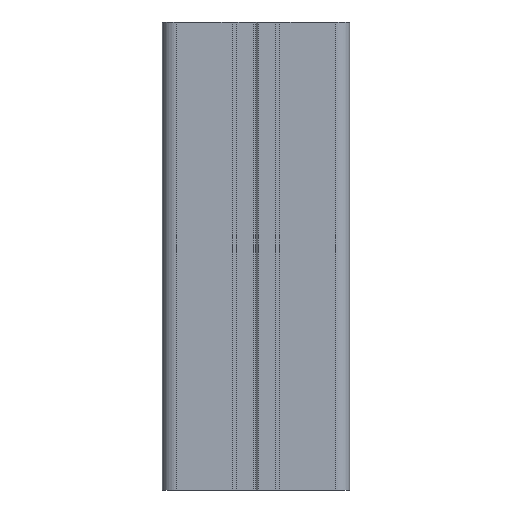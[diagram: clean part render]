
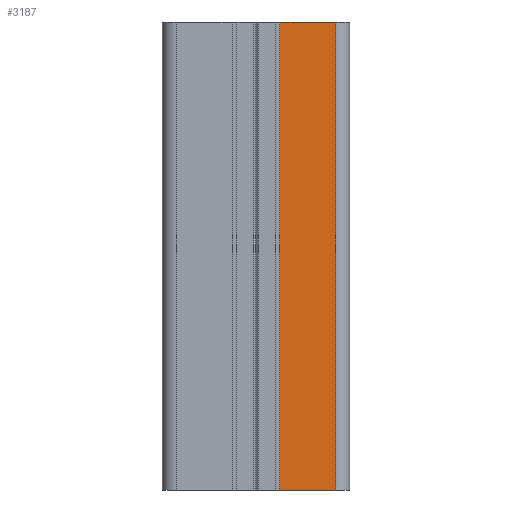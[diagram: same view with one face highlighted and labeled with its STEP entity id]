
A CAD part, front view. The second image highlights one B-rep face of the part: STEP entity #3187.
In plain terms, the highlighted planar face has unit normal (0, -1, 0).
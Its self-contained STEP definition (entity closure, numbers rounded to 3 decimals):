
#88 = LINE ( 'NONE', #4335, #4070 ) ;
#138 = EDGE_CURVE ( 'NONE', #4611, #657, #2816, .T. ) ;
#343 = EDGE_CURVE ( 'NONE', #657, #2981, #4596, .T. ) ;
#657 = VERTEX_POINT ( 'NONE', #1642 ) ;
#722 = ORIENTED_EDGE ( 'NONE', *, *, #1055, .F. ) ;
#933 = CARTESIAN_POINT ( 'NONE',  ( 5.095, -19.996, -100. ) ) ;
#1055 = EDGE_CURVE ( 'NONE', #4611, #1677, #88, .T. ) ;
#1414 = CARTESIAN_POINT ( 'NONE',  ( 16.995, -19.996, 0. ) ) ;
#1461 = VECTOR ( 'NONE', #1849, 1000. ) ;
#1583 = DIRECTION ( 'NONE',  ( 1., 0., 0. ) ) ;
#1642 = CARTESIAN_POINT ( 'NONE',  ( 16.995, -19.996, -100. ) ) ;
#1677 = VERTEX_POINT ( 'NONE', #4527 ) ;
#1784 = VECTOR ( 'NONE', #1583, 1000. ) ;
#1829 = ORIENTED_EDGE ( 'NONE', *, *, #138, .T. ) ;
#1849 = DIRECTION ( 'NONE',  ( 1., 0., 0. ) ) ;
#2070 = CARTESIAN_POINT ( 'NONE',  ( 16.995, -19.996, 0. ) ) ;
#2316 = DIRECTION ( 'NONE',  ( 0., 0., -1. ) ) ;
#2331 = CARTESIAN_POINT ( 'NONE',  ( 16.995, -19.996, -100. ) ) ;
#2546 = LINE ( 'NONE', #2070, #1784 ) ;
#2798 = DIRECTION ( 'NONE',  ( 0., -1., 0. ) ) ;
#2816 = LINE ( 'NONE', #2331, #1461 ) ;
#2848 = ORIENTED_EDGE ( 'NONE', *, *, #3134, .F. ) ;
#2949 = VECTOR ( 'NONE', #3619, 1000. ) ;
#2981 = VERTEX_POINT ( 'NONE', #1414 ) ;
#3021 = ORIENTED_EDGE ( 'NONE', *, *, #343, .T. ) ;
#3126 = AXIS2_PLACEMENT_3D ( 'NONE', #3296, #2798, #2316 ) ;
#3134 = EDGE_CURVE ( 'NONE', #1677, #2981, #2546, .T. ) ;
#3187 = ADVANCED_FACE ( 'NONE', ( #3372 ), #3787, .T. ) ;
#3296 = CARTESIAN_POINT ( 'NONE',  ( 16.995, -19.996, -100. ) ) ;
#3372 = FACE_OUTER_BOUND ( 'NONE', #4431, .T. ) ;
#3619 = DIRECTION ( 'NONE',  ( 0., 0., 1. ) ) ;
#3787 = PLANE ( 'NONE',  #3126 ) ;
#3850 = DIRECTION ( 'NONE',  ( 0., 0., 1. ) ) ;
#4070 = VECTOR ( 'NONE', #3850, 1000. ) ;
#4111 = CARTESIAN_POINT ( 'NONE',  ( 16.995, -19.996, -100. ) ) ;
#4335 = CARTESIAN_POINT ( 'NONE',  ( 5.095, -19.996, -100. ) ) ;
#4431 = EDGE_LOOP ( 'NONE', ( #2848, #722, #1829, #3021 ) ) ;
#4527 = CARTESIAN_POINT ( 'NONE',  ( 5.095, -19.996, 0. ) ) ;
#4596 = LINE ( 'NONE', #4111, #2949 ) ;
#4611 = VERTEX_POINT ( 'NONE', #933 ) ;
